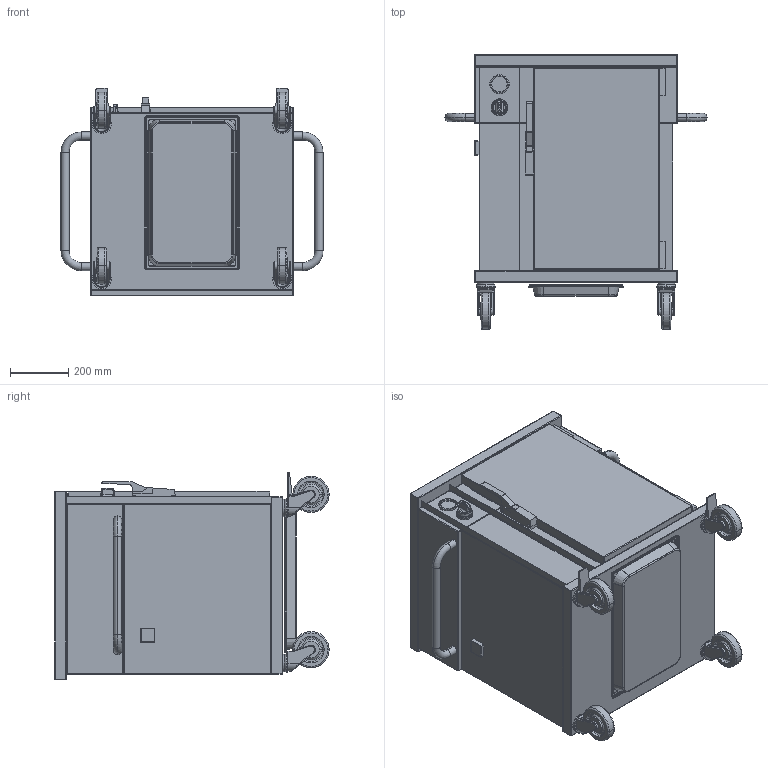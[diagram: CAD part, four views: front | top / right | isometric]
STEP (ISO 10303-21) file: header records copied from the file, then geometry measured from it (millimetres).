
FILE_DESCRIPTION((''),'2;1');
FILE_NAME('CTFE708CTE_EXPORT_STEP_ASM','2019-04-03T11:38:16',('r.avril'),(''),'CREO PARAMETRIC BY PTC INC, 2017260','CREO PARAMETRIC BY PTC INC, 2017260','');
FILE_SCHEMA(('AP203_CONFIGURATION_CONTROLLED_3D_DESIGN_OF_MECHANICAL_PARTS_AND_ASSEMBLIES_MIM_LF { 1 0 10303 403 2 1 2 }'));
Length unit declared in the file: millimetre
Products named in the file (8): CTFE708CTE_EXPORT_STEP; 65149010; 65149009; MANETTE_AMB_EXPORT_STEP; 65224012; 6532023POIGNEE; 6532645; CTFE708CTE_EXPORT_STEP_ASM
Assembly tree (9 placements, depth 2):
  CTFE708CTE_EXPORT_STEP_ASM
    CTFE708CTE_EXPORT_STEP
    65149010  x2
    65149009  x2
    MANETTE_AMB_EXPORT_STEP
    65224012
    6532023POIGNEE
    6532645
Bounding box: 903 x 945 x 714.5 mm (x, y, z)
Volume: 331865207.9 mm3; surface area: 6712626.6 mm2
Topology: 11 solids, 11 shells, 868 faces, 1980 edges, 1183 vertices
Faces by surface type: cylinder 351, plane 295, torus 106, cone 50, sphere 46, bspline 20
Entity records: 23587 total; most frequent: CARTESIAN_POINT 4662, DIRECTION 3652, ORIENTED_EDGE 3096, EDGE_CURVE 1548, AXIS2_PLACEMENT_3D 1425, VERTEX_POINT 921, VECTOR 778, LINE 778
